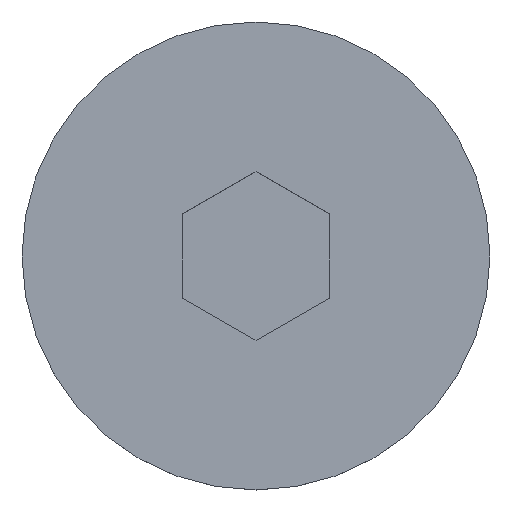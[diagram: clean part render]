
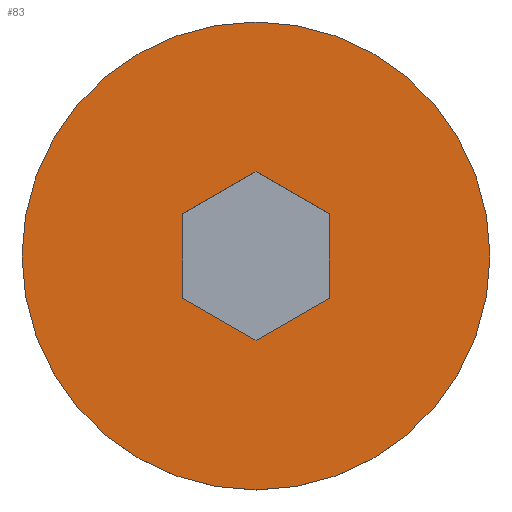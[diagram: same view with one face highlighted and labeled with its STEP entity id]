
A CAD part, top view. The second image highlights one B-rep face of the part: STEP entity #83.
In plain terms, the highlighted planar face has unit normal (0, 0, 1).
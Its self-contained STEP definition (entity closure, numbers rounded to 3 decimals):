
#4 = DIRECTION ( 'NONE',  ( 0., 1., 0. ) ) ;
#5 = CARTESIAN_POINT ( 'NONE',  ( 3., -1.732, 5.22 ) ) ;
#10 = DIRECTION ( 'NONE',  ( 0.866, 0.5, 0. ) ) ;
#13 = ORIENTED_EDGE ( 'NONE', *, *, #390, .F. ) ;
#15 = AXIS2_PLACEMENT_3D ( 'NONE', #149, #212, #397 ) ;
#16 = CARTESIAN_POINT ( 'NONE',  ( -3., -1.732, 5.22 ) ) ;
#17 = CARTESIAN_POINT ( 'NONE',  ( -3., 1.732, 5.22 ) ) ;
#20 = VERTEX_POINT ( 'NONE', #402 ) ;
#21 = DIRECTION ( 'NONE',  ( 0., -1., 0. ) ) ;
#31 = CARTESIAN_POINT ( 'NONE',  ( -3., 1.732, 5.22 ) ) ;
#37 = DIRECTION ( 'NONE',  ( -0.866, 0.5, 0. ) ) ;
#42 = DIRECTION ( 'NONE',  ( 0., 0., -1. ) ) ;
#49 = ORIENTED_EDGE ( 'NONE', *, *, #429, .F. ) ;
#50 = DIRECTION ( 'NONE',  ( 0., 0., 1. ) ) ;
#69 = VERTEX_POINT ( 'NONE', #162 ) ;
#71 = CARTESIAN_POINT ( 'NONE',  ( 3., 1.732, 5.22 ) ) ;
#79 = VECTOR ( 'NONE', #171, 1000. ) ;
#83 = ADVANCED_FACE ( 'NONE', ( #341, #242 ), #333, .T. ) ;
#97 = VECTOR ( 'NONE', #4, 1000. ) ;
#99 = VERTEX_POINT ( 'NONE', #337 ) ;
#104 = CIRCLE ( 'NONE', #233, 9.61 ) ;
#110 = VECTOR ( 'NONE', #10, 1000. ) ;
#117 = CIRCLE ( 'NONE', #15, 9.61 ) ;
#130 = LINE ( 'NONE', #354, #110 ) ;
#142 = EDGE_CURVE ( 'NONE', #174, #99, #288, .T. ) ;
#147 = CARTESIAN_POINT ( 'NONE',  ( 9.61, 0., 5.22 ) ) ;
#149 = CARTESIAN_POINT ( 'NONE',  ( 0., 0., 5.22 ) ) ;
#155 = VECTOR ( 'NONE', #37, 1000. ) ;
#162 = CARTESIAN_POINT ( 'NONE',  ( -9.61, 0., 5.22 ) ) ;
#164 = CARTESIAN_POINT ( 'NONE',  ( -9.61, 0., 5.22 ) ) ;
#168 = EDGE_CURVE ( 'NONE', #330, #174, #207, .T. ) ;
#171 = DIRECTION ( 'NONE',  ( -0.866, -0.5, 0. ) ) ;
#172 = CARTESIAN_POINT ( 'NONE',  ( 0., 3.464, 5.22 ) ) ;
#174 = VERTEX_POINT ( 'NONE', #31 ) ;
#188 = ORIENTED_EDGE ( 'NONE', *, *, #168, .F. ) ;
#191 = LINE ( 'NONE', #16, #245 ) ;
#196 = VECTOR ( 'NONE', #21, 1000. ) ;
#207 = LINE ( 'NONE', #172, #79 ) ;
#212 = DIRECTION ( 'NONE',  ( 0., 0., -1. ) ) ;
#213 = ORIENTED_EDGE ( 'NONE', *, *, #142, .F. ) ;
#222 = EDGE_LOOP ( 'NONE', ( #289, #13 ) ) ;
#233 = AXIS2_PLACEMENT_3D ( 'NONE', #424, #42, #355 ) ;
#242 = FACE_OUTER_BOUND ( 'NONE', #222, .T. ) ;
#245 = VECTOR ( 'NONE', #432, 1000. ) ;
#248 = LINE ( 'NONE', #71, #155 ) ;
#259 = VERTEX_POINT ( 'NONE', #269 ) ;
#261 = EDGE_CURVE ( 'NONE', #259, #330, #248, .T. ) ;
#269 = CARTESIAN_POINT ( 'NONE',  ( 3., 1.732, 5.22 ) ) ;
#274 = EDGE_LOOP ( 'NONE', ( #373, #342, #405, #49, #213, #188 ) ) ;
#280 = AXIS2_PLACEMENT_3D ( 'NONE', #164, #50, #301 ) ;
#283 = EDGE_CURVE ( 'NONE', #296, #259, #329, .T. ) ;
#288 = LINE ( 'NONE', #17, #196 ) ;
#289 = ORIENTED_EDGE ( 'NONE', *, *, #349, .F. ) ;
#296 = VERTEX_POINT ( 'NONE', #5 ) ;
#301 = DIRECTION ( 'NONE',  ( 1., 0., 0. ) ) ;
#329 = LINE ( 'NONE', #391, #97 ) ;
#330 = VERTEX_POINT ( 'NONE', #353 ) ;
#333 = PLANE ( 'NONE',  #280 ) ;
#337 = CARTESIAN_POINT ( 'NONE',  ( -3., -1.732, 5.22 ) ) ;
#341 = FACE_BOUND ( 'NONE', #274, .T. ) ;
#342 = ORIENTED_EDGE ( 'NONE', *, *, #283, .F. ) ;
#349 = EDGE_CURVE ( 'NONE', #69, #437, #117, .T. ) ;
#353 = CARTESIAN_POINT ( 'NONE',  ( 0., 3.464, 5.22 ) ) ;
#354 = CARTESIAN_POINT ( 'NONE',  ( 0., -3.464, 5.22 ) ) ;
#355 = DIRECTION ( 'NONE',  ( -1., 0., 0. ) ) ;
#373 = ORIENTED_EDGE ( 'NONE', *, *, #261, .F. ) ;
#390 = EDGE_CURVE ( 'NONE', #437, #69, #104, .T. ) ;
#391 = CARTESIAN_POINT ( 'NONE',  ( 3., -1.732, 5.22 ) ) ;
#397 = DIRECTION ( 'NONE',  ( -1., 0., 0. ) ) ;
#402 = CARTESIAN_POINT ( 'NONE',  ( 0., -3.464, 5.22 ) ) ;
#405 = ORIENTED_EDGE ( 'NONE', *, *, #446, .F. ) ;
#424 = CARTESIAN_POINT ( 'NONE',  ( 0., 0., 5.22 ) ) ;
#429 = EDGE_CURVE ( 'NONE', #99, #20, #191, .T. ) ;
#432 = DIRECTION ( 'NONE',  ( 0.866, -0.5, 0. ) ) ;
#437 = VERTEX_POINT ( 'NONE', #147 ) ;
#446 = EDGE_CURVE ( 'NONE', #20, #296, #130, .T. ) ;
